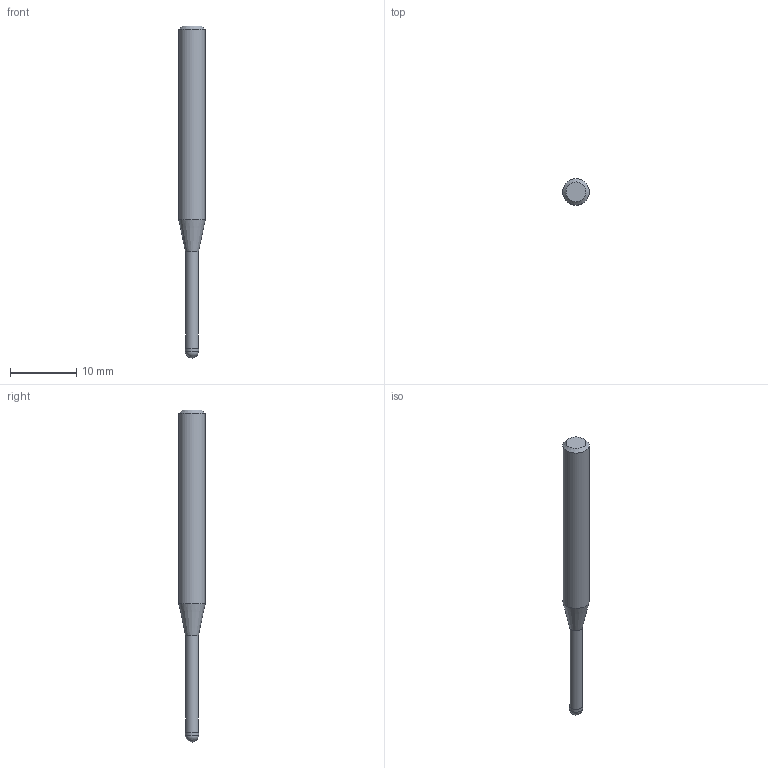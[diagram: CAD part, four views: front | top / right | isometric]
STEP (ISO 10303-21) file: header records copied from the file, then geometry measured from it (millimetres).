
FILE_DESCRIPTION((''),'2;1');
FILE_NAME('C:\Users\nsx150\AppData\Local\Temp\Mastercam 2021\AP8FW4WOPM\TEMP.step','2024-10-16T18:41:01',(''),(''),'STEP Write','Mastercam 2021 ... CNC Software, Inc.','');
FILE_SCHEMA(('AUTOMOTIVE_DESIGN'));
Length unit declared in the file: millimetre
Products named in the file (1): None
Bounding box: 4 x 4 x 50 mm (x, y, z)
Volume: 446.4 mm3; surface area: 525 mm2
Topology: 2 solids, 2 shells, 9 faces, 14 edges, 8 vertices
Faces by surface type: plane 3, cylinder 3, cone 2, sphere 1
Full cylindrical faces by diameter (mm): 1.94 x1, 2 x1, 4 x1
Entity records: 211 total; most frequent: DIRECTION 36, CARTESIAN_POINT 25, AXIS2_PLACEMENT_3D 18, ORIENTED_EDGE 14, EDGE_LOOP 14, STYLED_ITEM 12, ADVANCED_FACE 9, FACE_BOUND 8
